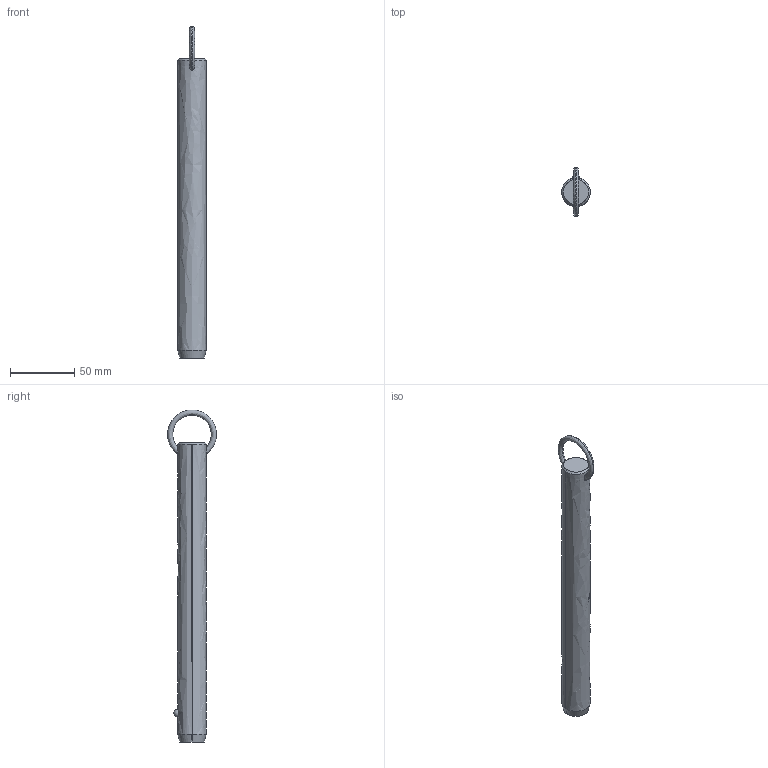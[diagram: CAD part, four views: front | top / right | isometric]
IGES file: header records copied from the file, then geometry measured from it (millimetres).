
Start section: SolidWorks IGES file using analytic representation for surfaces
Global section: file name: C:\Users\liam_\OneDrive\Documents\WORK\Work for WixRoyd\Job Files\J-00019 - Matt Davis CAD Checking\04. CAD Drawings\automotion20190605\P1250.2_v2\P1250.2_v2_20190729_IGES\P1250.087-770.igs; native system: SolidWorks 2017; preprocessor: SolidWorks 2017; author: liam_; date: 190730.173148; units: millimetre
Bounding box: 22.2 x 38.1 x 259.08 mm (x, y, z)
Surface area: 17942.8 mm2 (no closed solid volume)
Topology: 0 solids, 0 shells, 12 faces, 302 edges, 300 vertices
Faces by surface type: revolution 8, bspline 4
